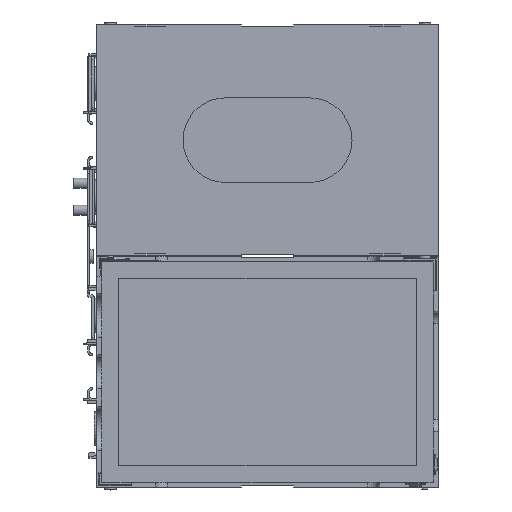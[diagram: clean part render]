
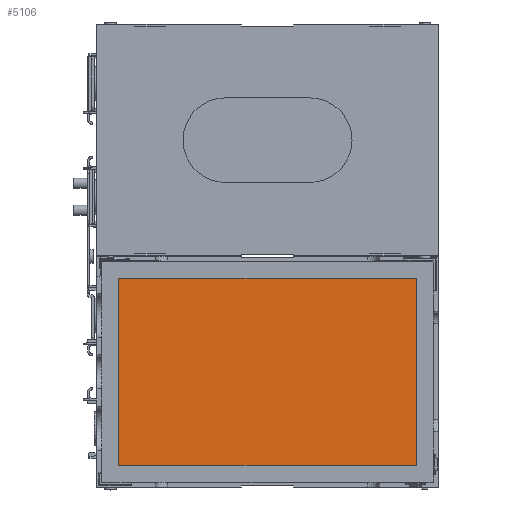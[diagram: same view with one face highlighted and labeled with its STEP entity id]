
A CAD part, top view. The second image highlights one B-rep face of the part: STEP entity #5106.
In plain terms, the highlighted planar face has unit normal (0, 0, 1).
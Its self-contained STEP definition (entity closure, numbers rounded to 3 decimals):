
#5106=ADVANCED_FACE('',(#10742),#8228,.T.);
#8228=PLANE('',#65314);
#10742=FACE_OUTER_BOUND('',#13807,.T.);
#13807=EDGE_LOOP('',(#17472,#17473,#17474,#17475));
#17472=ORIENTED_EDGE('',*,*,#41460,.T.);
#17473=ORIENTED_EDGE('',*,*,#41461,.T.);
#17474=ORIENTED_EDGE('',*,*,#41462,.T.);
#17475=ORIENTED_EDGE('',*,*,#41455,.F.);
#35338=VERTEX_POINT('',#86859);
#35339=VERTEX_POINT('',#86861);
#35342=VERTEX_POINT('',#86870);
#35343=VERTEX_POINT('',#86872);
#41455=EDGE_CURVE('',#35338,#35339,#50407,.T.);
#41460=EDGE_CURVE('',#35338,#35342,#50409,.T.);
#41461=EDGE_CURVE('',#35342,#35343,#50410,.T.);
#41462=EDGE_CURVE('',#35343,#35339,#50411,.T.);
#50407=LINE('',#86860,#57770);
#50409=LINE('',#86869,#57772);
#50410=LINE('',#86871,#57773);
#50411=LINE('',#86873,#57774);
#57770=VECTOR('',#70261,1.);
#57772=VECTOR('',#70271,1.);
#57773=VECTOR('',#70272,1.);
#57774=VECTOR('',#70273,1.);
#65314=AXIS2_PLACEMENT_3D('',#86874,#70274,#70275);
#70261=DIRECTION('',(0.,1.,0.));
#70271=DIRECTION('',(1.,0.,0.));
#70272=DIRECTION('',(0.,1.,0.));
#70273=DIRECTION('',(-1.,0.,0.));
#70274=DIRECTION('',(0.,0.,1.));
#70275=DIRECTION('',(0.,-1.,0.));
#86859=CARTESIAN_POINT('',(-63.9,0.45,5.75));
#86860=CARTESIAN_POINT('',(-63.9,63.2,5.75));
#86861=CARTESIAN_POINT('',(-63.9,125.95,5.75));
#86869=CARTESIAN_POINT('',(131.8,0.45,5.75));
#86870=CARTESIAN_POINT('',(129.3,0.45,5.75));
#86871=CARTESIAN_POINT('',(129.3,63.2,5.75));
#86872=CARTESIAN_POINT('',(129.3,125.95,5.75));
#86873=CARTESIAN_POINT('',(-0.1,125.95,5.75));
#86874=CARTESIAN_POINT('',(-0.1,63.2,5.75));
